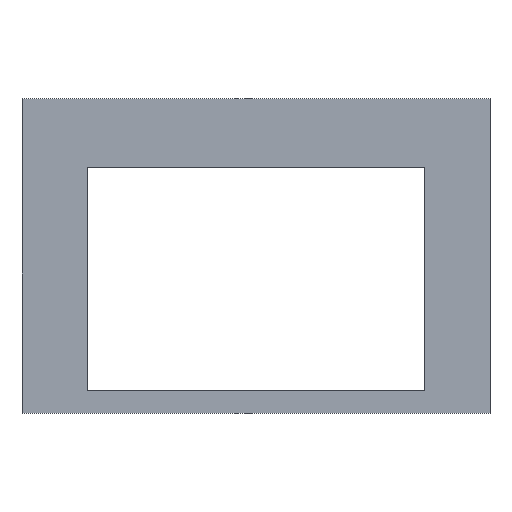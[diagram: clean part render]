
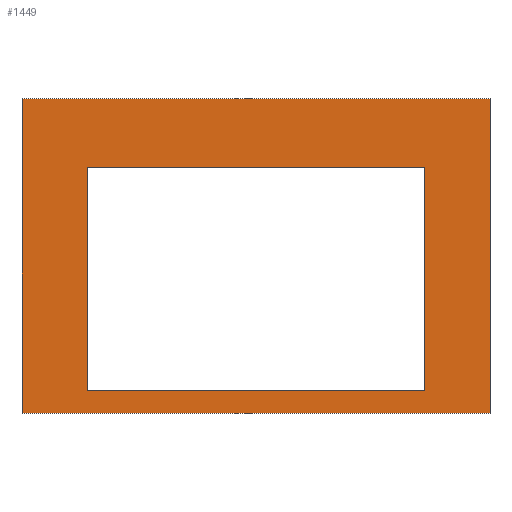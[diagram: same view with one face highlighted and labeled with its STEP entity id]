
A CAD part, top view. The second image highlights one B-rep face of the part: STEP entity #1449.
In plain terms, the highlighted planar face has unit normal (0, 0, 1).
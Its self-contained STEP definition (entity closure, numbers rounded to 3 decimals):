
#268 = PLANE('',#269);
#269 = AXIS2_PLACEMENT_3D('',#270,#271,#272);
#270 = CARTESIAN_POINT('',(-68.19,64.097,-3.15));
#271 = DIRECTION('',(-0.,1.,0.));
#272 = DIRECTION('',(0.,0.,1.));
#296 = PLANE('',#297);
#297 = AXIS2_PLACEMENT_3D('',#298,#299,#300);
#298 = CARTESIAN_POINT('',(-70.39,-17.903,-3.15));
#299 = DIRECTION('',(1.,0.,-0.));
#300 = DIRECTION('',(0.,0.,1.));
#324 = PLANE('',#325);
#325 = AXIS2_PLACEMENT_3D('',#326,#327,#328);
#326 = CARTESIAN_POINT('',(-68.19,-17.903,-3.15));
#327 = DIRECTION('',(-0.,1.,0.));
#328 = DIRECTION('',(0.,0.,1.));
#350 = PLANE('',#351);
#351 = AXIS2_PLACEMENT_3D('',#352,#353,#354);
#352 = CARTESIAN_POINT('',(51.61,-17.903,-3.15));
#353 = DIRECTION('',(1.,0.,-0.));
#354 = DIRECTION('',(0.,0.,1.));
#857 = VERTEX_POINT('',#858);
#858 = CARTESIAN_POINT('',(-70.39,64.097,6.1));
#879 = EDGE_CURVE('',#857,#880,#882,.T.);
#880 = VERTEX_POINT('',#881);
#881 = CARTESIAN_POINT('',(51.61,64.097,6.1));
#882 = SURFACE_CURVE('',#883,(#887,#894),.PCURVE_S1.);
#883 = LINE('',#884,#885);
#884 = CARTESIAN_POINT('',(-70.39,64.097,6.1));
#885 = VECTOR('',#886,1.);
#886 = DIRECTION('',(1.,0.,-0.));
#887 = PCURVE('',#268,#888);
#888 = DEFINITIONAL_REPRESENTATION('',(#889),#893);
#889 = LINE('',#890,#891);
#890 = CARTESIAN_POINT('',(9.25,-2.2));
#891 = VECTOR('',#892,1.);
#892 = DIRECTION('',(0.,1.));
#893 = ( GEOMETRIC_REPRESENTATION_CONTEXT(2) 
PARAMETRIC_REPRESENTATION_CONTEXT() REPRESENTATION_CONTEXT('2D SPACE',''
  ) );
#894 = PCURVE('',#895,#900);
#895 = PLANE('',#896);
#896 = AXIS2_PLACEMENT_3D('',#897,#898,#899);
#897 = CARTESIAN_POINT('',(-70.39,-17.903,6.1));
#898 = DIRECTION('',(0.,0.,1.));
#899 = DIRECTION('',(1.,0.,-0.));
#900 = DEFINITIONAL_REPRESENTATION('',(#901),#905);
#901 = LINE('',#902,#903);
#902 = CARTESIAN_POINT('',(0.,82.));
#903 = VECTOR('',#904,1.);
#904 = DIRECTION('',(1.,0.));
#905 = ( GEOMETRIC_REPRESENTATION_CONTEXT(2) 
PARAMETRIC_REPRESENTATION_CONTEXT() REPRESENTATION_CONTEXT('2D SPACE',''
  ) );
#932 = VERTEX_POINT('',#933);
#933 = CARTESIAN_POINT('',(-70.39,-17.903,6.1));
#956 = EDGE_CURVE('',#932,#857,#957,.T.);
#957 = SURFACE_CURVE('',#958,(#962,#969),.PCURVE_S1.);
#958 = LINE('',#959,#960);
#959 = CARTESIAN_POINT('',(-70.39,-17.903,6.1));
#960 = VECTOR('',#961,1.);
#961 = DIRECTION('',(-0.,1.,0.));
#962 = PCURVE('',#296,#963);
#963 = DEFINITIONAL_REPRESENTATION('',(#964),#968);
#964 = LINE('',#965,#966);
#965 = CARTESIAN_POINT('',(9.25,0.));
#966 = VECTOR('',#967,1.);
#967 = DIRECTION('',(0.,-1.));
#968 = ( GEOMETRIC_REPRESENTATION_CONTEXT(2) 
PARAMETRIC_REPRESENTATION_CONTEXT() REPRESENTATION_CONTEXT('2D SPACE',''
  ) );
#969 = PCURVE('',#895,#970);
#970 = DEFINITIONAL_REPRESENTATION('',(#971),#975);
#971 = LINE('',#972,#973);
#972 = CARTESIAN_POINT('',(0.,0.));
#973 = VECTOR('',#974,1.);
#974 = DIRECTION('',(0.,1.));
#975 = ( GEOMETRIC_REPRESENTATION_CONTEXT(2) 
PARAMETRIC_REPRESENTATION_CONTEXT() REPRESENTATION_CONTEXT('2D SPACE',''
  ) );
#982 = EDGE_CURVE('',#932,#983,#985,.T.);
#983 = VERTEX_POINT('',#984);
#984 = CARTESIAN_POINT('',(51.61,-17.903,6.1));
#985 = SURFACE_CURVE('',#986,(#990,#997),.PCURVE_S1.);
#986 = LINE('',#987,#988);
#987 = CARTESIAN_POINT('',(-70.39,-17.903,6.1));
#988 = VECTOR('',#989,1.);
#989 = DIRECTION('',(1.,0.,-0.));
#990 = PCURVE('',#324,#991);
#991 = DEFINITIONAL_REPRESENTATION('',(#992),#996);
#992 = LINE('',#993,#994);
#993 = CARTESIAN_POINT('',(9.25,-2.2));
#994 = VECTOR('',#995,1.);
#995 = DIRECTION('',(0.,1.));
#996 = ( GEOMETRIC_REPRESENTATION_CONTEXT(2) 
PARAMETRIC_REPRESENTATION_CONTEXT() REPRESENTATION_CONTEXT('2D SPACE',''
  ) );
#997 = PCURVE('',#895,#998);
#998 = DEFINITIONAL_REPRESENTATION('',(#999),#1003);
#999 = LINE('',#1000,#1001);
#1000 = CARTESIAN_POINT('',(0.,0.));
#1001 = VECTOR('',#1002,1.);
#1002 = DIRECTION('',(1.,0.));
#1003 = ( GEOMETRIC_REPRESENTATION_CONTEXT(2) 
PARAMETRIC_REPRESENTATION_CONTEXT() REPRESENTATION_CONTEXT('2D SPACE',''
  ) );
#1032 = EDGE_CURVE('',#983,#880,#1033,.T.);
#1033 = SURFACE_CURVE('',#1034,(#1038,#1045),.PCURVE_S1.);
#1034 = LINE('',#1035,#1036);
#1035 = CARTESIAN_POINT('',(51.61,-17.903,6.1));
#1036 = VECTOR('',#1037,1.);
#1037 = DIRECTION('',(-0.,1.,0.));
#1038 = PCURVE('',#350,#1039);
#1039 = DEFINITIONAL_REPRESENTATION('',(#1040),#1044);
#1040 = LINE('',#1041,#1042);
#1041 = CARTESIAN_POINT('',(9.25,0.));
#1042 = VECTOR('',#1043,1.);
#1043 = DIRECTION('',(0.,-1.));
#1044 = ( GEOMETRIC_REPRESENTATION_CONTEXT(2) 
PARAMETRIC_REPRESENTATION_CONTEXT() REPRESENTATION_CONTEXT('2D SPACE',''
  ) );
#1045 = PCURVE('',#895,#1046);
#1046 = DEFINITIONAL_REPRESENTATION('',(#1047),#1051);
#1047 = LINE('',#1048,#1049);
#1048 = CARTESIAN_POINT('',(122.,0.));
#1049 = VECTOR('',#1050,1.);
#1050 = DIRECTION('',(0.,1.));
#1051 = ( GEOMETRIC_REPRESENTATION_CONTEXT(2) 
PARAMETRIC_REPRESENTATION_CONTEXT() REPRESENTATION_CONTEXT('2D SPACE',''
  ) );
#1322 = PLANE('',#1323);
#1323 = AXIS2_PLACEMENT_3D('',#1324,#1325,#1326);
#1324 = CARTESIAN_POINT('',(-53.39,-11.89,4.88));
#1325 = DIRECTION('',(-0.,1.,0.));
#1326 = DIRECTION('',(0.,0.,1.));
#1350 = PLANE('',#1351);
#1351 = AXIS2_PLACEMENT_3D('',#1352,#1353,#1354);
#1352 = CARTESIAN_POINT('',(-53.39,-11.89,4.88));
#1353 = DIRECTION('',(1.,0.,-0.));
#1354 = DIRECTION('',(0.,0.,1.));
#1378 = PLANE('',#1379);
#1379 = AXIS2_PLACEMENT_3D('',#1380,#1381,#1382);
#1380 = CARTESIAN_POINT('',(-53.39,46.11,4.88));
#1381 = DIRECTION('',(-0.,1.,0.));
#1382 = DIRECTION('',(0.,0.,1.));
#1404 = PLANE('',#1405);
#1405 = AXIS2_PLACEMENT_3D('',#1406,#1407,#1408);
#1406 = CARTESIAN_POINT('',(34.61,-11.89,4.88));
#1407 = DIRECTION('',(1.,0.,-0.));
#1408 = DIRECTION('',(0.,0.,1.));
#1449 = ADVANCED_FACE('',(#1450,#1456),#895,.T.);
#1450 = FACE_BOUND('',#1451,.T.);
#1451 = EDGE_LOOP('',(#1452,#1453,#1454,#1455));
#1452 = ORIENTED_EDGE('',*,*,#956,.F.);
#1453 = ORIENTED_EDGE('',*,*,#982,.T.);
#1454 = ORIENTED_EDGE('',*,*,#1032,.T.);
#1455 = ORIENTED_EDGE('',*,*,#879,.F.);
#1456 = FACE_BOUND('',#1457,.T.);
#1457 = EDGE_LOOP('',(#1458,#1483,#1506,#1529));
#1458 = ORIENTED_EDGE('',*,*,#1459,.T.);
#1459 = EDGE_CURVE('',#1460,#1462,#1464,.T.);
#1460 = VERTEX_POINT('',#1461);
#1461 = CARTESIAN_POINT('',(34.61,-11.89,6.1));
#1462 = VERTEX_POINT('',#1463);
#1463 = CARTESIAN_POINT('',(-53.39,-11.89,6.1));
#1464 = SURFACE_CURVE('',#1465,(#1469,#1476),.PCURVE_S1.);
#1465 = LINE('',#1466,#1467);
#1466 = CARTESIAN_POINT('',(-61.89,-11.89,6.1));
#1467 = VECTOR('',#1468,1.);
#1468 = DIRECTION('',(-1.,-0.,0.));
#1469 = PCURVE('',#895,#1470);
#1470 = DEFINITIONAL_REPRESENTATION('',(#1471),#1475);
#1471 = LINE('',#1472,#1473);
#1472 = CARTESIAN_POINT('',(8.5,6.013));
#1473 = VECTOR('',#1474,1.);
#1474 = DIRECTION('',(-1.,0.));
#1475 = ( GEOMETRIC_REPRESENTATION_CONTEXT(2) 
PARAMETRIC_REPRESENTATION_CONTEXT() REPRESENTATION_CONTEXT('2D SPACE',''
  ) );
#1476 = PCURVE('',#1322,#1477);
#1477 = DEFINITIONAL_REPRESENTATION('',(#1478),#1482);
#1478 = LINE('',#1479,#1480);
#1479 = CARTESIAN_POINT('',(1.22,-8.5));
#1480 = VECTOR('',#1481,1.);
#1481 = DIRECTION('',(0.,-1.));
#1482 = ( GEOMETRIC_REPRESENTATION_CONTEXT(2) 
PARAMETRIC_REPRESENTATION_CONTEXT() REPRESENTATION_CONTEXT('2D SPACE',''
  ) );
#1483 = ORIENTED_EDGE('',*,*,#1484,.T.);
#1484 = EDGE_CURVE('',#1462,#1485,#1487,.T.);
#1485 = VERTEX_POINT('',#1486);
#1486 = CARTESIAN_POINT('',(-53.39,46.11,6.1));
#1487 = SURFACE_CURVE('',#1488,(#1492,#1499),.PCURVE_S1.);
#1488 = LINE('',#1489,#1490);
#1489 = CARTESIAN_POINT('',(-53.39,-14.897,6.1));
#1490 = VECTOR('',#1491,1.);
#1491 = DIRECTION('',(-0.,1.,0.));
#1492 = PCURVE('',#895,#1493);
#1493 = DEFINITIONAL_REPRESENTATION('',(#1494),#1498);
#1494 = LINE('',#1495,#1496);
#1495 = CARTESIAN_POINT('',(17.,3.007));
#1496 = VECTOR('',#1497,1.);
#1497 = DIRECTION('',(0.,1.));
#1498 = ( GEOMETRIC_REPRESENTATION_CONTEXT(2) 
PARAMETRIC_REPRESENTATION_CONTEXT() REPRESENTATION_CONTEXT('2D SPACE',''
  ) );
#1499 = PCURVE('',#1350,#1500);
#1500 = DEFINITIONAL_REPRESENTATION('',(#1501),#1505);
#1501 = LINE('',#1502,#1503);
#1502 = CARTESIAN_POINT('',(1.22,3.007));
#1503 = VECTOR('',#1504,1.);
#1504 = DIRECTION('',(0.,-1.));
#1505 = ( GEOMETRIC_REPRESENTATION_CONTEXT(2) 
PARAMETRIC_REPRESENTATION_CONTEXT() REPRESENTATION_CONTEXT('2D SPACE',''
  ) );
#1506 = ORIENTED_EDGE('',*,*,#1507,.F.);
#1507 = EDGE_CURVE('',#1508,#1485,#1510,.T.);
#1508 = VERTEX_POINT('',#1509);
#1509 = CARTESIAN_POINT('',(34.61,46.11,6.1));
#1510 = SURFACE_CURVE('',#1511,(#1515,#1522),.PCURVE_S1.);
#1511 = LINE('',#1512,#1513);
#1512 = CARTESIAN_POINT('',(-61.89,46.11,6.1));
#1513 = VECTOR('',#1514,1.);
#1514 = DIRECTION('',(-1.,-0.,0.));
#1515 = PCURVE('',#895,#1516);
#1516 = DEFINITIONAL_REPRESENTATION('',(#1517),#1521);
#1517 = LINE('',#1518,#1519);
#1518 = CARTESIAN_POINT('',(8.5,64.013));
#1519 = VECTOR('',#1520,1.);
#1520 = DIRECTION('',(-1.,0.));
#1521 = ( GEOMETRIC_REPRESENTATION_CONTEXT(2) 
PARAMETRIC_REPRESENTATION_CONTEXT() REPRESENTATION_CONTEXT('2D SPACE',''
  ) );
#1522 = PCURVE('',#1378,#1523);
#1523 = DEFINITIONAL_REPRESENTATION('',(#1524),#1528);
#1524 = LINE('',#1525,#1526);
#1525 = CARTESIAN_POINT('',(1.22,-8.5));
#1526 = VECTOR('',#1527,1.);
#1527 = DIRECTION('',(0.,-1.));
#1528 = ( GEOMETRIC_REPRESENTATION_CONTEXT(2) 
PARAMETRIC_REPRESENTATION_CONTEXT() REPRESENTATION_CONTEXT('2D SPACE',''
  ) );
#1529 = ORIENTED_EDGE('',*,*,#1530,.F.);
#1530 = EDGE_CURVE('',#1460,#1508,#1531,.T.);
#1531 = SURFACE_CURVE('',#1532,(#1536,#1543),.PCURVE_S1.);
#1532 = LINE('',#1533,#1534);
#1533 = CARTESIAN_POINT('',(34.61,-14.897,6.1));
#1534 = VECTOR('',#1535,1.);
#1535 = DIRECTION('',(-0.,1.,0.));
#1536 = PCURVE('',#895,#1537);
#1537 = DEFINITIONAL_REPRESENTATION('',(#1538),#1542);
#1538 = LINE('',#1539,#1540);
#1539 = CARTESIAN_POINT('',(105.,3.007));
#1540 = VECTOR('',#1541,1.);
#1541 = DIRECTION('',(0.,1.));
#1542 = ( GEOMETRIC_REPRESENTATION_CONTEXT(2) 
PARAMETRIC_REPRESENTATION_CONTEXT() REPRESENTATION_CONTEXT('2D SPACE',''
  ) );
#1543 = PCURVE('',#1404,#1544);
#1544 = DEFINITIONAL_REPRESENTATION('',(#1545),#1549);
#1545 = LINE('',#1546,#1547);
#1546 = CARTESIAN_POINT('',(1.22,3.007));
#1547 = VECTOR('',#1548,1.);
#1548 = DIRECTION('',(0.,-1.));
#1549 = ( GEOMETRIC_REPRESENTATION_CONTEXT(2) 
PARAMETRIC_REPRESENTATION_CONTEXT() REPRESENTATION_CONTEXT('2D SPACE',''
  ) );
